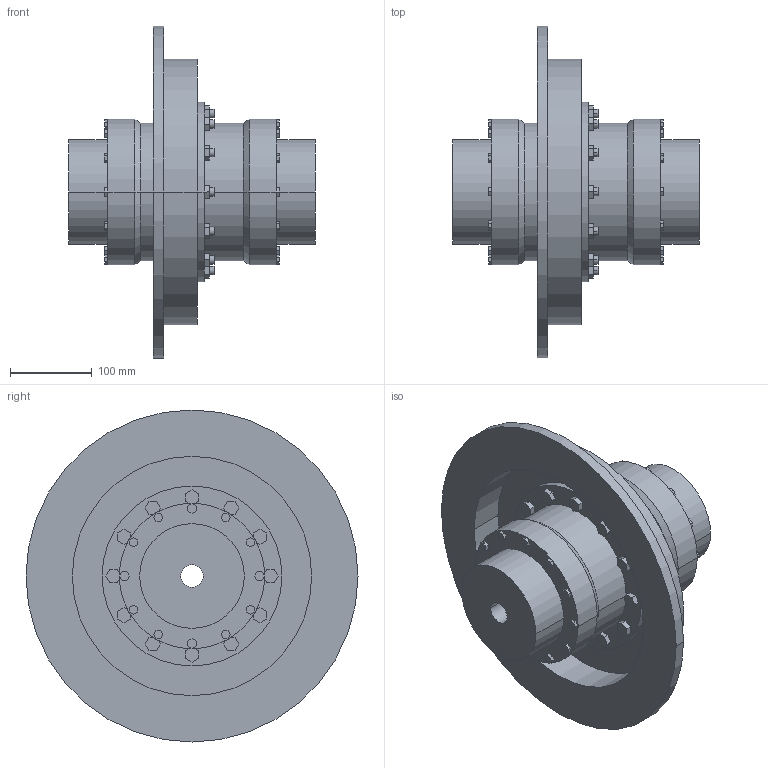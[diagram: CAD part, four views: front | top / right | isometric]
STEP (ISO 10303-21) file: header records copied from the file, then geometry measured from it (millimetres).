
FILE_DESCRIPTION((''),'2;1');
FILE_NAME('A19727100-0_ASM','2019-05-23T',('AB_Roschiwal'),('RENK AG'),'PRO/ENGINEER BY PARAMETRIC TECHNOLOGY CORPORATION, 2015440','PRO/ENGINEER BY PARAMETRIC TECHNOLOGY CORPORATION, 2015440','');
FILE_SCHEMA(('CONFIG_CONTROL_DESIGN'));
Length unit declared in the file: millimetre
Products named in the file (4): SBKT80_GEHAEUSE; SBKT80_NABE; SBKT80_BREMSSCHEIBE; A19727100-0_ASM
Assembly tree (4 placements, depth 2):
  A19727100-0_ASM
    SBKT80_GEHAEUSE
    SBKT80_NABE  x2
    SBKT80_BREMSSCHEIBE
Bounding box: 302 x 406 x 406 mm (x, y, z)
Volume: 6159277.1 mm3; surface area: 815375.2 mm2
Topology: 4 solids, 4 shells, 470 faces, 1156 edges, 768 vertices
Faces by surface type: plane 370, cylinder 96, cone 4
Entity records: 13604 total; most frequent: CARTESIAN_POINT 2350, ORIENTED_EDGE 2264, DIRECTION 2240, EDGE_CURVE 1132, VECTOR 956, LINE 956, VERTEX_POINT 752, AXIS2_PLACEMENT_3D 642
